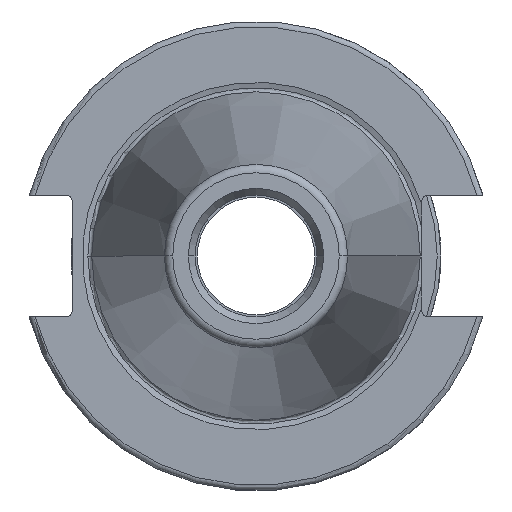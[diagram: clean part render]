
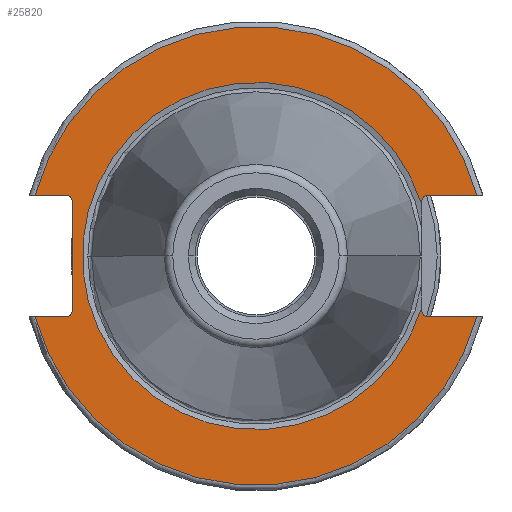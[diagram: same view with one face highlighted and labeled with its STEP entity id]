
A CAD part, left-side view. The second image highlights one B-rep face of the part: STEP entity #25820.
In plain terms, the highlighted planar face has unit normal (-1, 0, 0).
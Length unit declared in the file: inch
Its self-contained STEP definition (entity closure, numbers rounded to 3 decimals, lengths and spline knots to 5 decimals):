
#207 = VERTEX_POINT ( 'NONE', #19327 ) ;
#290 = EDGE_CURVE ( 'NONE', #1023, #28531, #18860, .T. ) ;
#475 = CARTESIAN_POINT ( 'NONE',  ( 0.125, 1.1766, -0.3225 ) ) ;
#776 = DIRECTION ( 'NONE',  ( 1., 0., 0. ) ) ;
#823 = CIRCLE ( 'NONE', #1044, 0.03 ) ;
#901 = CARTESIAN_POINT ( 'NONE',  ( 0.125, -0.8825, 0.2925 ) ) ;
#1023 = VERTEX_POINT ( 'NONE', #15380 ) ;
#1044 = AXIS2_PLACEMENT_3D ( 'NONE', #23717, #23329, #25945 ) ;
#1215 = ORIENTED_EDGE ( 'NONE', *, *, #14361, .T. ) ;
#1695 = ORIENTED_EDGE ( 'NONE', *, *, #22481, .T. ) ;
#1749 = LINE ( 'NONE', #25494, #28641 ) ;
#1991 = ORIENTED_EDGE ( 'NONE', *, *, #13580, .F. ) ;
#2025 = VERTEX_POINT ( 'NONE', #5344 ) ;
#2478 = LINE ( 'NONE', #2865, #28357 ) ;
#2531 = AXIS2_PLACEMENT_3D ( 'NONE', #4977, #776, #16387 ) ;
#2865 = CARTESIAN_POINT ( 'NONE',  ( 0.125, -0.8825, 1.22 ) ) ;
#3214 = DIRECTION ( 'NONE',  ( 0., 1., 0. ) ) ;
#3830 = LINE ( 'NONE', #25213, #17471 ) ;
#3846 = ORIENTED_EDGE ( 'NONE', *, *, #10030, .F. ) ;
#4032 = AXIS2_PLACEMENT_3D ( 'NONE', #19348, #8173, #21461 ) ;
#4780 = EDGE_LOOP ( 'NONE', ( #6178, #1991, #24429, #1215, #24076, #10549, #1695, #21223, #25693, #5872, #3846, #28326, #26901, #15192 ) ) ;
#4977 = CARTESIAN_POINT ( 'NONE',  ( 0.125, 1.0075, 0.2925 ) ) ;
#5344 = CARTESIAN_POINT ( 'NONE',  ( 0.125, -0.9125, -0.3225 ) ) ;
#5441 = AXIS2_PLACEMENT_3D ( 'NONE', #16266, #27687, #9815 ) ;
#5872 = ORIENTED_EDGE ( 'NONE', *, *, #7992, .F. ) ;
#6075 = VECTOR ( 'NONE', #3214, 39.37008 ) ;
#6178 = ORIENTED_EDGE ( 'NONE', *, *, #13427, .F. ) ;
#6318 = EDGE_CURVE ( 'NONE', #14069, #17652, #24227, .T. ) ;
#6371 = EDGE_CURVE ( 'NONE', #11740, #14516, #823, .T. ) ;
#6472 = CARTESIAN_POINT ( 'NONE',  ( 0.125, 0., 0. ) ) ;
#6828 = DIRECTION ( 'NONE',  ( 0., 1., 0. ) ) ;
#7200 = CARTESIAN_POINT ( 'NONE',  ( 0.125, 1.1766, 0.3225 ) ) ;
#7711 = CARTESIAN_POINT ( 'NONE',  ( 0.125, 0., -0.3225 ) ) ;
#7992 = EDGE_CURVE ( 'NONE', #21993, #28531, #25556, .T. ) ;
#8173 = DIRECTION ( 'NONE',  ( -1., 0., 0. ) ) ;
#8189 = VERTEX_POINT ( 'NONE', #20926 ) ;
#8220 = AXIS2_PLACEMENT_3D ( 'NONE', #6472, #10800, #8720 ) ;
#8700 = LINE ( 'NONE', #12974, #27221 ) ;
#8720 = DIRECTION ( 'NONE',  ( 0., 1., 0. ) ) ;
#9073 = DIRECTION ( 'NONE',  ( 1., 0., 0. ) ) ;
#9258 = CARTESIAN_POINT ( 'NONE',  ( 0.125, -0.8825, 0.27356 ) ) ;
#9460 = CARTESIAN_POINT ( 'NONE',  ( 0.125, -1.1766, 0.3225 ) ) ;
#9815 = DIRECTION ( 'NONE',  ( 0., -1., 0. ) ) ;
#9924 = CARTESIAN_POINT ( 'NONE',  ( 0.125, 0.9775, -0.2925 ) ) ;
#10030 = EDGE_CURVE ( 'NONE', #14069, #21993, #8700, .T. ) ;
#10377 = DIRECTION ( 'NONE',  ( 0., -1., 0. ) ) ;
#10549 = ORIENTED_EDGE ( 'NONE', *, *, #16426, .T. ) ;
#10800 = DIRECTION ( 'NONE',  ( 1., 0., 0. ) ) ;
#11323 = EDGE_CURVE ( 'NONE', #20558, #1023, #16502, .T. ) ;
#11480 = DIRECTION ( 'NONE',  ( 0., 0., 1. ) ) ;
#11585 = AXIS2_PLACEMENT_3D ( 'NONE', #23745, #23453, #10377 ) ;
#11740 = VERTEX_POINT ( 'NONE', #9924 ) ;
#11854 = DIRECTION ( 'NONE',  ( 0., 0., 1. ) ) ;
#12596 = CIRCLE ( 'NONE', #14201, 1.22 ) ;
#12974 = CARTESIAN_POINT ( 'NONE',  ( 0.125, 0., 0.3225 ) ) ;
#13419 = EDGE_CURVE ( 'NONE', #207, #19307, #1749, .T. ) ;
#13427 = EDGE_CURVE ( 'NONE', #20974, #14516, #3830, .T. ) ;
#13442 = CARTESIAN_POINT ( 'NONE',  ( 0.125, 1.0075, 0.3225 ) ) ;
#13580 = EDGE_CURVE ( 'NONE', #8189, #20974, #12596, .T. ) ;
#14069 = VERTEX_POINT ( 'NONE', #13442 ) ;
#14201 = AXIS2_PLACEMENT_3D ( 'NONE', #15041, #21789, #17503 ) ;
#14361 = EDGE_CURVE ( 'NONE', #2025, #207, #18193, .T. ) ;
#14516 = VERTEX_POINT ( 'NONE', #19418 ) ;
#15041 = CARTESIAN_POINT ( 'NONE',  ( 0.125, 0., 0. ) ) ;
#15192 = ORIENTED_EDGE ( 'NONE', *, *, #6371, .T. ) ;
#15380 = CARTESIAN_POINT ( 'NONE',  ( 0.125, -0.9125, 0.3225 ) ) ;
#16266 = CARTESIAN_POINT ( 'NONE',  ( 0.125, -0.9125, -0.2925 ) ) ;
#16336 = FACE_OUTER_BOUND ( 'NONE', #4780, .T. ) ;
#16387 = DIRECTION ( 'NONE',  ( 0., -1., 0. ) ) ;
#16426 = EDGE_CURVE ( 'NONE', #19307, #25490, #28589, .T. ) ;
#16502 = CIRCLE ( 'NONE', #11585, 0.03 ) ;
#16677 = CARTESIAN_POINT ( 'NONE',  ( 0.125, 0.9775, 1.22 ) ) ;
#16761 = CARTESIAN_POINT ( 'NONE',  ( 0.125, 0.9775, 0.2925 ) ) ;
#17461 = DIRECTION ( 'NONE',  ( 0., 1., 0. ) ) ;
#17471 = VECTOR ( 'NONE', #23076, 39.37008 ) ;
#17503 = DIRECTION ( 'NONE',  ( 0., 1., 0. ) ) ;
#17652 = VERTEX_POINT ( 'NONE', #16761 ) ;
#17988 = CARTESIAN_POINT ( 'NONE',  ( 0.125, 0., 0.3225 ) ) ;
#18193 = CIRCLE ( 'NONE', #5441, 0.03 ) ;
#18860 = LINE ( 'NONE', #17988, #22687 ) ;
#19307 = VERTEX_POINT ( 'NONE', #24627 ) ;
#19327 = CARTESIAN_POINT ( 'NONE',  ( 0.125, -0.8825, -0.2925 ) ) ;
#19348 = CARTESIAN_POINT ( 'NONE',  ( 0.125, 0., 1.22 ) ) ;
#19381 = EDGE_CURVE ( 'NONE', #8189, #2025, #22178, .T. ) ;
#19418 = CARTESIAN_POINT ( 'NONE',  ( 0.125, 1.0075, -0.3225 ) ) ;
#20558 = VERTEX_POINT ( 'NONE', #901 ) ;
#20926 = CARTESIAN_POINT ( 'NONE',  ( 0.125, -1.1766, -0.3225 ) ) ;
#20973 = DIRECTION ( 'NONE',  ( 0., 0., 1. ) ) ;
#20974 = VERTEX_POINT ( 'NONE', #475 ) ;
#21223 = ORIENTED_EDGE ( 'NONE', *, *, #11323, .T. ) ;
#21461 = DIRECTION ( 'NONE',  ( 0., -1., 0. ) ) ;
#21789 = DIRECTION ( 'NONE',  ( 1., 0., 0. ) ) ;
#21993 = VERTEX_POINT ( 'NONE', #7200 ) ;
#22178 = LINE ( 'NONE', #7711, #6075 ) ;
#22481 = EDGE_CURVE ( 'NONE', #25490, #20558, #2478, .T. ) ;
#22687 = VECTOR ( 'NONE', #26560, 39.37008 ) ;
#23076 = DIRECTION ( 'NONE',  ( 0., -1., 0. ) ) ;
#23253 = AXIS2_PLACEMENT_3D ( 'NONE', #26943, #9073, #6828 ) ;
#23329 = DIRECTION ( 'NONE',  ( 1., 0., 0. ) ) ;
#23453 = DIRECTION ( 'NONE',  ( 1., 0., 0. ) ) ;
#23717 = CARTESIAN_POINT ( 'NONE',  ( 0.125, 1.0075, -0.2925 ) ) ;
#23745 = CARTESIAN_POINT ( 'NONE',  ( 0.125, -0.9125, 0.2925 ) ) ;
#24076 = ORIENTED_EDGE ( 'NONE', *, *, #13419, .T. ) ;
#24227 = CIRCLE ( 'NONE', #2531, 0.03 ) ;
#24387 = VECTOR ( 'NONE', #20973, 39.37008 ) ;
#24429 = ORIENTED_EDGE ( 'NONE', *, *, #19381, .T. ) ;
#24627 = CARTESIAN_POINT ( 'NONE',  ( 0.125, -0.8825, -0.27356 ) ) ;
#25213 = CARTESIAN_POINT ( 'NONE',  ( 0.125, 0., -0.3225 ) ) ;
#25490 = VERTEX_POINT ( 'NONE', #9258 ) ;
#25494 = CARTESIAN_POINT ( 'NONE',  ( 0.125, -0.8825, 1.22 ) ) ;
#25556 = CIRCLE ( 'NONE', #8220, 1.22 ) ;
#25693 = ORIENTED_EDGE ( 'NONE', *, *, #290, .T. ) ;
#25700 = EDGE_CURVE ( 'NONE', #11740, #17652, #27886, .T. ) ;
#25820 = ADVANCED_FACE ( 'NONE', ( #16336 ), #25940, .T. ) ;
#25940 = PLANE ( 'NONE',  #4032 ) ;
#25945 = DIRECTION ( 'NONE',  ( 0., -1., 0. ) ) ;
#26560 = DIRECTION ( 'NONE',  ( 0., -1., 0. ) ) ;
#26901 = ORIENTED_EDGE ( 'NONE', *, *, #25700, .F. ) ;
#26943 = CARTESIAN_POINT ( 'NONE',  ( 0.125, 0., 0. ) ) ;
#27221 = VECTOR ( 'NONE', #17461, 39.37008 ) ;
#27687 = DIRECTION ( 'NONE',  ( 1., 0., 0. ) ) ;
#27886 = LINE ( 'NONE', #16677, #24387 ) ;
#28326 = ORIENTED_EDGE ( 'NONE', *, *, #6318, .T. ) ;
#28357 = VECTOR ( 'NONE', #11480, 39.37008 ) ;
#28531 = VERTEX_POINT ( 'NONE', #9460 ) ;
#28589 = CIRCLE ( 'NONE', #23253, 0.92393 ) ;
#28641 = VECTOR ( 'NONE', #11854, 39.37008 ) ;
